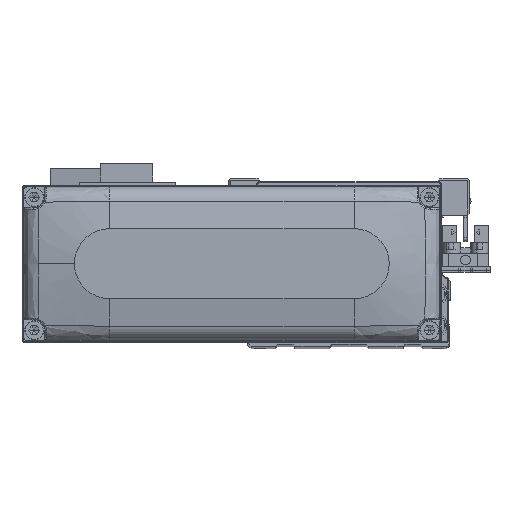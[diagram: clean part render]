
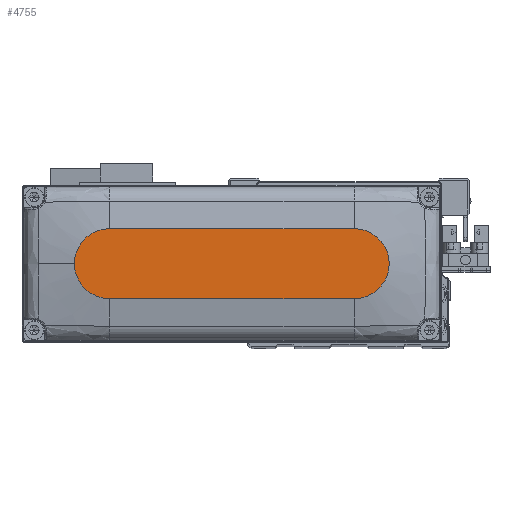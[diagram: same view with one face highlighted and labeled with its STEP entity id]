
A CAD part, top view. The second image highlights one B-rep face of the part: STEP entity #4755.
In plain terms, the highlighted planar face has unit normal (0, 0, 1).
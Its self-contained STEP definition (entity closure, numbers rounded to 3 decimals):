
#1872 = EDGE_CURVE ( 'NONE', #6713, #13734, #25954, .T. ) ;
#4198 = DIRECTION ( 'NONE',  ( 1., 0., 0. ) ) ;
#4755 = ADVANCED_FACE ( 'NONE', ( #19814 ), #31461, .T. ) ;
#5338 = CARTESIAN_POINT ( 'NONE',  ( 0., 0., 28. ) ) ;
#5566 = DIRECTION ( 'NONE',  ( 0., 0., 1. ) ) ;
#6468 = VERTEX_POINT ( 'NONE', #20850 ) ;
#6713 = VERTEX_POINT ( 'NONE', #33985 ) ;
#6814 = EDGE_CURVE ( 'NONE', #25008, #6468, #31985, .T. ) ;
#6847 = DIRECTION ( 'NONE',  ( 1., 0., 0. ) ) ;
#7463 = CARTESIAN_POINT ( 'NONE',  ( -35., 0., 28. ) ) ;
#8283 = ORIENTED_EDGE ( 'NONE', *, *, #15896, .T. ) ;
#9362 = CIRCLE ( 'NONE', #14232, 10. ) ;
#11085 = EDGE_CURVE ( 'NONE', #35323, #25008, #21345, .T. ) ;
#11472 = DIRECTION ( 'NONE',  ( -1., 0., 0. ) ) ;
#12388 = VECTOR ( 'NONE', #6847, 1000. ) ;
#12459 = ORIENTED_EDGE ( 'NONE', *, *, #13064, .T. ) ;
#13064 = EDGE_CURVE ( 'NONE', #13734, #35323, #9362, .T. ) ;
#13734 = VERTEX_POINT ( 'NONE', #29858 ) ;
#14232 = AXIS2_PLACEMENT_3D ( 'NONE', #7463, #19092, #30717 ) ;
#15523 = AXIS2_PLACEMENT_3D ( 'NONE', #31699, #5566, #17194 ) ;
#15896 = EDGE_CURVE ( 'NONE', #6468, #6713, #21715, .T. ) ;
#16974 = DIRECTION ( 'NONE',  ( 0., 0., 1. ) ) ;
#17194 = DIRECTION ( 'NONE',  ( 1., 0., 0. ) ) ;
#18694 = CARTESIAN_POINT ( 'NONE',  ( 35., 0., 28. ) ) ;
#19092 = DIRECTION ( 'NONE',  ( 0., 0., 1. ) ) ;
#19814 = FACE_OUTER_BOUND ( 'NONE', #31928, .T. ) ;
#20750 = CARTESIAN_POINT ( 'NONE',  ( 35., -10., 28. ) ) ;
#20850 = CARTESIAN_POINT ( 'NONE',  ( 45., 0., 28. ) ) ;
#21345 = LINE ( 'NONE', #32970, #12388 ) ;
#21715 = CIRCLE ( 'NONE', #26603, 10. ) ;
#25000 = ORIENTED_EDGE ( 'NONE', *, *, #6814, .T. ) ;
#25008 = VERTEX_POINT ( 'NONE', #20750 ) ;
#25954 = LINE ( 'NONE', #37571, #28999 ) ;
#26603 = AXIS2_PLACEMENT_3D ( 'NONE', #18694, #30331, #4198 ) ;
#28604 = DIRECTION ( 'NONE',  ( 1., 0., 0. ) ) ;
#28999 = VECTOR ( 'NONE', #11472, 1000. ) ;
#29858 = CARTESIAN_POINT ( 'NONE',  ( -35., 10., 28. ) ) ;
#30054 = ORIENTED_EDGE ( 'NONE', *, *, #1872, .T. ) ;
#30331 = DIRECTION ( 'NONE',  ( 0., 0., 1. ) ) ;
#30716 = AXIS2_PLACEMENT_3D ( 'NONE', #5338, #16974, #28604 ) ;
#30717 = DIRECTION ( 'NONE',  ( 1., 0., 0. ) ) ;
#31461 = PLANE ( 'NONE',  #30716 ) ;
#31699 = CARTESIAN_POINT ( 'NONE',  ( 35., 0., 28. ) ) ;
#31928 = EDGE_LOOP ( 'NONE', ( #30054, #12459, #36843, #25000, #8283 ) ) ;
#31985 = CIRCLE ( 'NONE', #15523, 10. ) ;
#32970 = CARTESIAN_POINT ( 'NONE',  ( -35., -10., 28. ) ) ;
#33985 = CARTESIAN_POINT ( 'NONE',  ( 35., 10., 28. ) ) ;
#35248 = CARTESIAN_POINT ( 'NONE',  ( -35., -10., 28. ) ) ;
#35323 = VERTEX_POINT ( 'NONE', #35248 ) ;
#36843 = ORIENTED_EDGE ( 'NONE', *, *, #11085, .T. ) ;
#37571 = CARTESIAN_POINT ( 'NONE',  ( -35., 10., 28. ) ) ;
